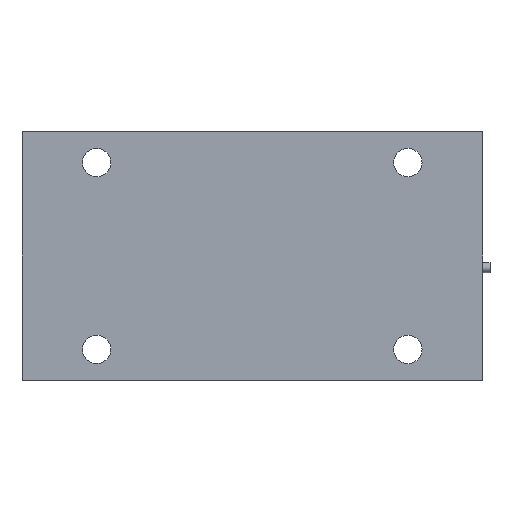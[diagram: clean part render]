
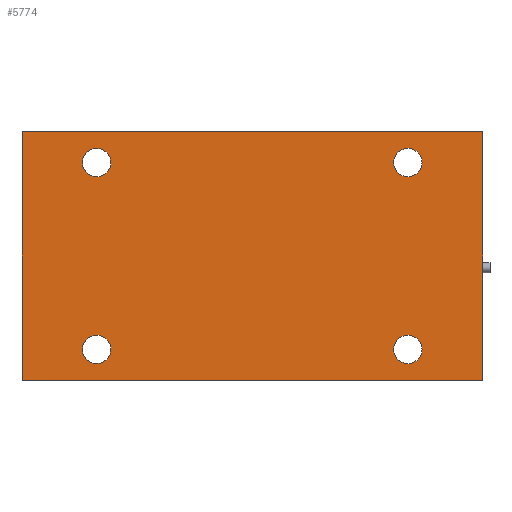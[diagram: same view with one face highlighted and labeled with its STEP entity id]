
A CAD part, front view. The second image highlights one B-rep face of the part: STEP entity #5774.
In plain terms, the highlighted planar face has unit normal (0, -1, 0).
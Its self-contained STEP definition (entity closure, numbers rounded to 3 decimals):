
#374=FACE_BOUND('',#941,.T.);
#375=FACE_BOUND('',#942,.T.);
#376=FACE_BOUND('',#943,.T.);
#377=FACE_BOUND('',#944,.T.);
#440=PLANE('',#6212);
#586=FACE_OUTER_BOUND('',#940,.T.);
#940=EDGE_LOOP('',(#3995,#3996,#3997,#3998));
#941=EDGE_LOOP('',(#3999));
#942=EDGE_LOOP('',(#4000));
#943=EDGE_LOOP('',(#4001));
#944=EDGE_LOOP('',(#4002));
#1348=LINE('',#8294,#1795);
#1352=LINE('',#8302,#1799);
#1355=LINE('',#8308,#1802);
#1358=LINE('',#8313,#1805);
#1795=VECTOR('',#6844,10.);
#1799=VECTOR('',#6850,10.);
#1802=VECTOR('',#6855,10.);
#1805=VECTOR('',#6860,10.);
#2203=CIRCLE('',#6197,7.25);
#2205=CIRCLE('',#6200,7.25);
#2207=CIRCLE('',#6203,7.25);
#2209=CIRCLE('',#6206,7.25);
#2391=VERTEX_POINT('',#8270);
#2393=VERTEX_POINT('',#8276);
#2395=VERTEX_POINT('',#8282);
#2397=VERTEX_POINT('',#8288);
#2398=VERTEX_POINT('',#8292);
#2399=VERTEX_POINT('',#8293);
#2402=VERTEX_POINT('',#8301);
#2404=VERTEX_POINT('',#8307);
#2995=EDGE_CURVE('',#2391,#2391,#2203,.T.);
#2998=EDGE_CURVE('',#2393,#2393,#2205,.T.);
#3001=EDGE_CURVE('',#2395,#2395,#2207,.T.);
#3004=EDGE_CURVE('',#2397,#2397,#2209,.T.);
#3005=EDGE_CURVE('',#2398,#2399,#1348,.T.);
#3009=EDGE_CURVE('',#2399,#2402,#1352,.T.);
#3012=EDGE_CURVE('',#2402,#2404,#1355,.T.);
#3015=EDGE_CURVE('',#2404,#2398,#1358,.T.);
#3995=ORIENTED_EDGE('',*,*,#3015,.T.);
#3996=ORIENTED_EDGE('',*,*,#3005,.T.);
#3997=ORIENTED_EDGE('',*,*,#3009,.T.);
#3998=ORIENTED_EDGE('',*,*,#3012,.T.);
#3999=ORIENTED_EDGE('',*,*,#3004,.F.);
#4000=ORIENTED_EDGE('',*,*,#3001,.F.);
#4001=ORIENTED_EDGE('',*,*,#2998,.F.);
#4002=ORIENTED_EDGE('',*,*,#2995,.F.);
#5774=ADVANCED_FACE('',(#586,#374,#375,#376,#377),#440,.F.);
#6197=AXIS2_PLACEMENT_3D('',#8272,#6819,#6820);
#6200=AXIS2_PLACEMENT_3D('',#8278,#6826,#6827);
#6203=AXIS2_PLACEMENT_3D('',#8284,#6833,#6834);
#6206=AXIS2_PLACEMENT_3D('',#8290,#6840,#6841);
#6212=AXIS2_PLACEMENT_3D('',#8316,#6864,#6865);
#6819=DIRECTION('center_axis',(0.,-1.,0.));
#6820=DIRECTION('ref_axis',(1.,0.,0.));
#6826=DIRECTION('center_axis',(0.,-1.,0.));
#6827=DIRECTION('ref_axis',(1.,0.,0.));
#6833=DIRECTION('center_axis',(0.,-1.,0.));
#6834=DIRECTION('ref_axis',(1.,0.,0.));
#6840=DIRECTION('center_axis',(0.,-1.,0.));
#6841=DIRECTION('ref_axis',(1.,0.,0.));
#6844=DIRECTION('',(0.,0.,1.));
#6850=DIRECTION('',(-1.,0.,0.));
#6855=DIRECTION('',(0.,0.,-1.));
#6860=DIRECTION('',(1.,0.,0.));
#6864=DIRECTION('center_axis',(0.,1.,0.));
#6865=DIRECTION('ref_axis',(1.,0.,0.));
#8270=CARTESIAN_POINT('',(-86.65,0.,-47.65));
#8272=CARTESIAN_POINT('Origin',(-79.4,0.,-47.65));
#8276=CARTESIAN_POINT('',(-86.65,0.,47.65));
#8278=CARTESIAN_POINT('Origin',(-79.4,0.,47.65));
#8282=CARTESIAN_POINT('',(72.15,0.,47.65));
#8284=CARTESIAN_POINT('Origin',(79.4,0.,47.65));
#8288=CARTESIAN_POINT('',(72.15,0.,-47.65));
#8290=CARTESIAN_POINT('Origin',(79.4,0.,-47.65));
#8292=CARTESIAN_POINT('',(117.5,0.,-63.5));
#8293=CARTESIAN_POINT('',(117.5,0.,63.5));
#8294=CARTESIAN_POINT('',(117.5,0.,-63.5));
#8301=CARTESIAN_POINT('',(-117.5,0.,63.5));
#8302=CARTESIAN_POINT('',(117.5,0.,63.5));
#8307=CARTESIAN_POINT('',(-117.5,0.,-63.5));
#8308=CARTESIAN_POINT('',(-117.5,0.,63.5));
#8313=CARTESIAN_POINT('',(-117.5,0.,-63.5));
#8316=CARTESIAN_POINT('Origin',(0.,0.,0.));
